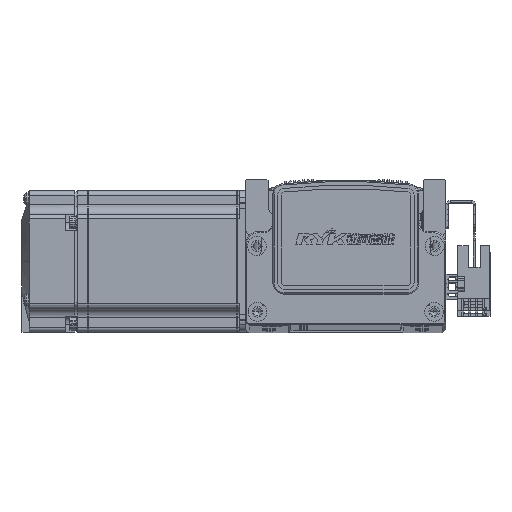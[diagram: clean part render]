
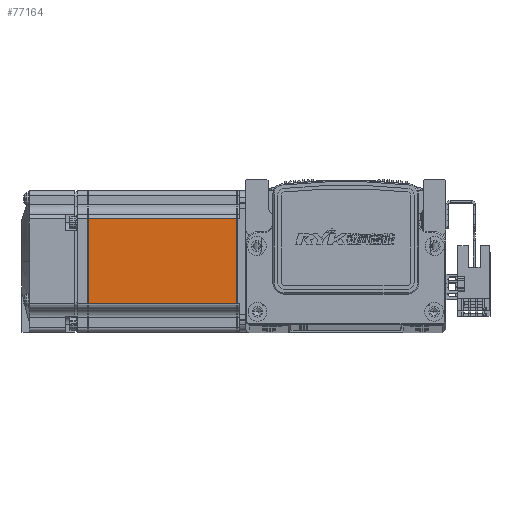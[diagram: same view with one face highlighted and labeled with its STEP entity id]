
A CAD part, top view. The second image highlights one B-rep face of the part: STEP entity #77164.
In plain terms, the highlighted planar face has unit normal (0, 0, 1) as drawn and (0, 0, -1) by its records, which use the part's own axes.
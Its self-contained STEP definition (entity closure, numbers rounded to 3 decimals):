
#1343 = CARTESIAN_POINT ( 'NONE',  ( -70.95, 25., -30. ) ) ;
#1378 = DIRECTION ( 'NONE',  ( 0., 1., 0. ) ) ;
#1463 = CARTESIAN_POINT ( 'NONE',  ( -6.5, -18., -30. ) ) ;
#1493 = DIRECTION ( 'NONE',  ( -1., 0., 0. ) ) ;
#1582 = CARTESIAN_POINT ( 'NONE',  ( -7.75, 25., -30. ) ) ;
#1587 = DIRECTION ( 'NONE',  ( 0., -1., 0. ) ) ;
#1599 = DIRECTION ( 'NONE',  ( 1., 0., 0. ) ) ;
#1631 = CARTESIAN_POINT ( 'NONE',  ( -6.5, 18., -30. ) ) ;
#7618 = LINE ( 'NONE', #1631, #7676 ) ;
#7676 = VECTOR ( 'NONE', #1599, 1000. ) ;
#7715 = VECTOR ( 'NONE', #1587, 1000. ) ;
#8119 = LINE ( 'NONE', #1343, #8133 ) ;
#8123 = VECTOR ( 'NONE', #1493, 1000. ) ;
#8133 = VECTOR ( 'NONE', #1378, 1000. ) ;
#8139 = LINE ( 'NONE', #1463, #8123 ) ;
#8207 = LINE ( 'NONE', #1582, #7715 ) ;
#10097 = FACE_OUTER_BOUND ( 'NONE', #39562, .T. ) ;
#22922 = AXIS2_PLACEMENT_3D ( 'NONE', #61592, #61581, #61608 ) ;
#37317 = CARTESIAN_POINT ( 'NONE',  ( -70.95, 18., -30. ) ) ;
#37354 = CARTESIAN_POINT ( 'NONE',  ( -70.95, -18., -30. ) ) ;
#37384 = CARTESIAN_POINT ( 'NONE',  ( -7.75, -18., -30. ) ) ;
#37419 = CARTESIAN_POINT ( 'NONE',  ( -7.75, 18., -30. ) ) ;
#39562 = EDGE_LOOP ( 'NONE', ( #62883, #62933, #62884, #62931 ) ) ;
#46288 = EDGE_CURVE ( 'NONE', #51845, #51798, #8119, .T. ) ;
#46310 = EDGE_CURVE ( 'NONE', #51824, #51845, #8139, .T. ) ;
#46339 = EDGE_CURVE ( 'NONE', #51798, #51840, #7618, .T. ) ;
#46351 = EDGE_CURVE ( 'NONE', #51840, #51824, #8207, .T. ) ;
#51798 = VERTEX_POINT ( 'NONE', #37317 ) ;
#51824 = VERTEX_POINT ( 'NONE', #37384 ) ;
#51840 = VERTEX_POINT ( 'NONE', #37419 ) ;
#51845 = VERTEX_POINT ( 'NONE', #37354 ) ;
#61581 = DIRECTION ( 'NONE',  ( 0., 0., -1. ) ) ;
#61592 = CARTESIAN_POINT ( 'NONE',  ( -6.5, 25., -30. ) ) ;
#61608 = DIRECTION ( 'NONE',  ( -1., 0., 0. ) ) ;
#61609 = PLANE ( 'NONE',  #22922 ) ;
#62883 = ORIENTED_EDGE ( 'NONE', *, *, #46351, .T. ) ;
#62884 = ORIENTED_EDGE ( 'NONE', *, *, #46288, .T. ) ;
#62931 = ORIENTED_EDGE ( 'NONE', *, *, #46339, .T. ) ;
#62933 = ORIENTED_EDGE ( 'NONE', *, *, #46310, .T. ) ;
#77164 = ADVANCED_FACE ( 'NONE', ( #10097 ), #61609, .T. ) ;
